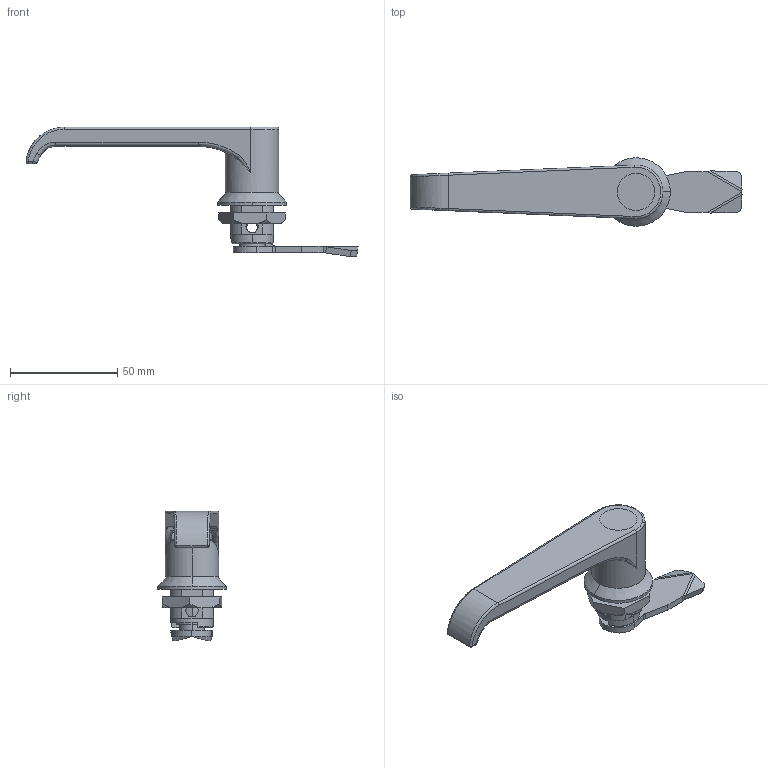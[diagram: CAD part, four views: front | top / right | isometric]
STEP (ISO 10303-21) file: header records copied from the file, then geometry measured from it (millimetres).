
FILE_DESCRIPTION (( 'STEP AP214' ), '1' );
FILE_NAME ('Zamkniêcie z klamk¹ L.STEP', '2010-02-19T13:32:52', ( 'Rak' ), ( 'ROZTOCZE' ), 'SwSTEP 2.0', 'SolidWorks 2004231', '' );
FILE_SCHEMA (( 'AUTOMOTIVE_DESIGN' ));
Length unit declared in the file: millimetre
Products named in the file (6): 2.M22.06.01.00_Domyœlna_Domyœlna; Zaœlepka_Domyœlna_Domyœlna; 1C_J-10018_00_03_00_Domyœlna; 2.L18..001.01_Domyœlna_Domyœlna; Zamkniêcie z klamk¹ L; 2.L18..001.02_Domyœlna_Domyœlna
Assembly tree (5 placements, depth 2):
  Zamkniêcie z klamk¹ L
    2.M22.06.01.00_Domyœlna_Domyœlna
    2.L18..001.02_Domyœlna_Domyœlna
    1C_J-10018_00_03_00_Domyœlna
    Zaœlepka_Domyœlna_Domyœlna
    2.L18..001.01_Domyœlna_Domyœlna
Bounding box: 154.93 x 32 x 60.56 mm (x, y, z)
Volume: 32884.9 mm3; surface area: 21082.2 mm2
Topology: 5 solids, 5 shells, 215 faces, 544 edges, 340 vertices
Faces by surface type: plane 86, cylinder 72, cone 26, bspline 26, torus 3, sphere 2
Entity records: 12269 total; most frequent: CARTESIAN_POINT 4745, ORIENTED_EDGE 1076, DIRECTION 990, EDGE_CURVE 538, AXIS2_PLACEMENT_3D 368, VERTEX_POINT 338, VECTOR 254, LINE 254
